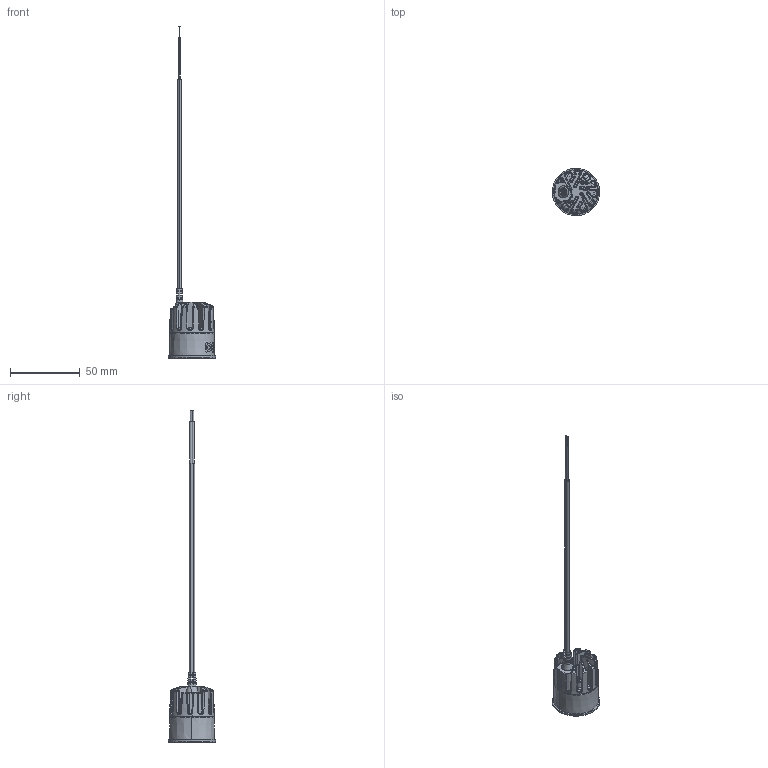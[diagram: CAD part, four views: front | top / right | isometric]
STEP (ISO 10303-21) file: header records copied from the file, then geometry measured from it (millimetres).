
FILE_DESCRIPTION (( 'STEP AP203' ), '1' );
FILE_NAME ('CN35_G2-Drawing.STEP', '2020-11-05T02:37:44', ( '' ), ( '' ), 'SwSTEP 2.0', 'SolidWorks 2017', '' );
FILE_SCHEMA (( 'CONFIG_CONTROL_DESIGN' ));
Length unit declared in the file: millimetre
Products named in the file (1): CN35_G2-Drawing
Bounding box: 33.98 x 33.98 x 237.7 mm (x, y, z)
Surface area: 12271.9 mm2 (no closed solid volume)
Topology: 0 solids, 7 shells, 722 faces, 2196 edges, 1421 vertices
Faces by surface type: bspline 366, cone 121, plane 102, torus 88, cylinder 45
Entity records: 37328 total; most frequent: CARTESIAN_POINT 21412, ORIENTED_EDGE 3753, DIRECTION 2348, EDGE_CURVE 2191, VERTEX_POINT 1421, B_SPLINE_CURVE_WITH_KNOTS 1195, AXIS2_PLACEMENT_3D 1019, EDGE_LOOP 738
